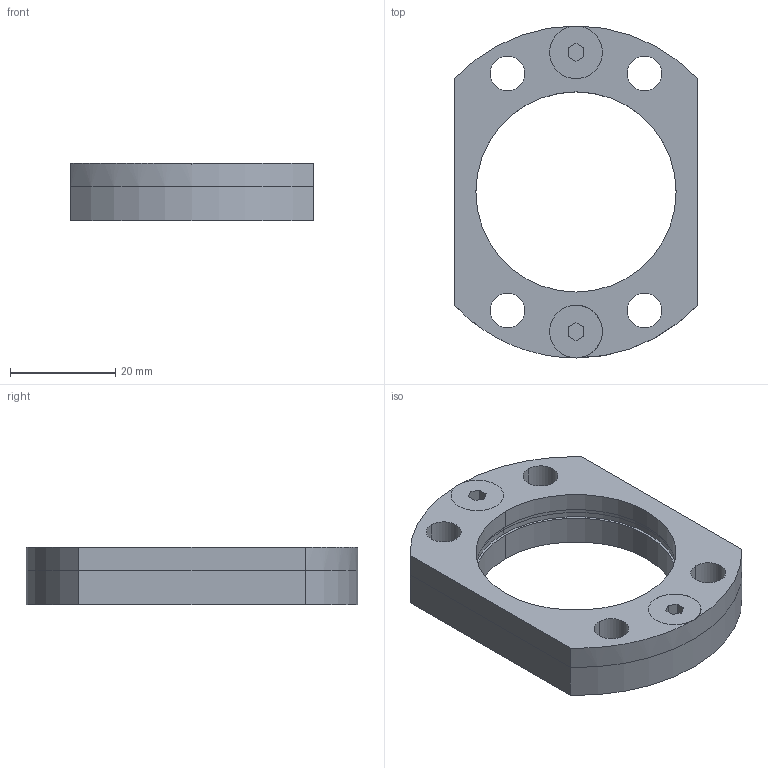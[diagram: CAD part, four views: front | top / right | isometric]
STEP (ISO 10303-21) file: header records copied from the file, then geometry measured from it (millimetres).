
FILE_DESCRIPTION(/* description */ (''),/* implementation_level */ '2;1');
FILE_NAME(/* name */ '3d_fm-38_03757_r00.stp',/* time_stamp */ '2011-01-10T14:15:37+09:00',/* author */ ('MISUMI'),/* organization */ (''),/* preprocessor_version */ 'ST-DEVELOPER v11',/* originating_system */ 'UGS - NX 5.0',/* authorisation */ '');
FILE_SCHEMA (('CONFIG_CONTROL_DESIGN'));
Length unit declared in the file: millimetre
Products named in the file (1): 3d_fm-38_03757_r00
Bounding box: 46 x 63 x 11 mm (x, y, z)
Volume: 14568.4 mm3; surface area: 10518.4 mm2
Topology: 4 solids, 4 shells, 80 faces, 193 edges, 124 vertices
Faces by surface type: cylinder 40, plane 28, cone 12
Entity records: 2488 total; most frequent: DIRECTION 446, CARTESIAN_POINT 397, ORIENTED_EDGE 384, EDGE_CURVE 192, AXIS2_PLACEMENT_3D 173, VERTEX_POINT 124, EDGE_LOOP 112, LINE 100
